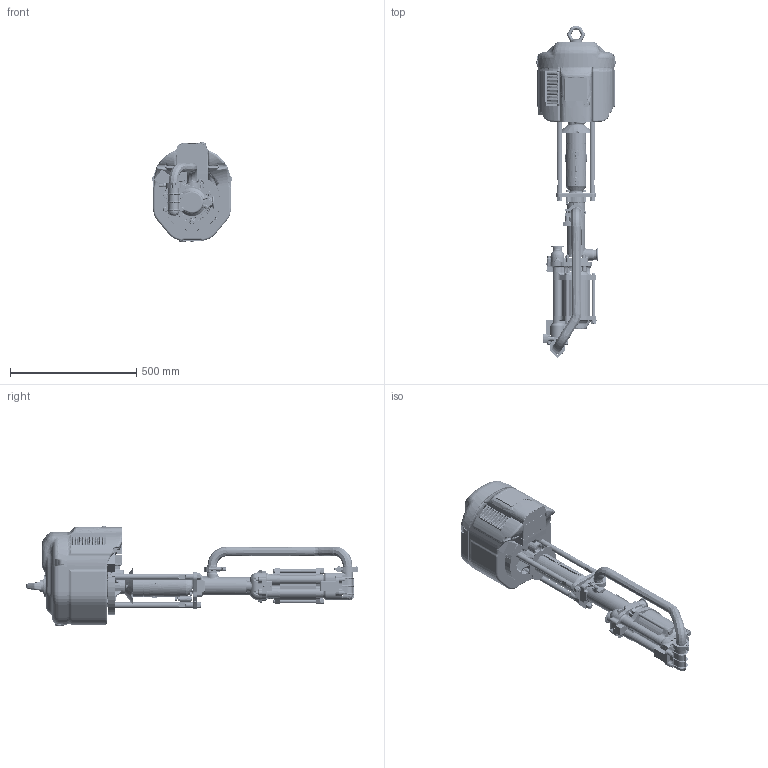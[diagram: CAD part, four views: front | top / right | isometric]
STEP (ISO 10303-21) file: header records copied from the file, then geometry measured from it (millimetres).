
FILE_DESCRIPTION((''),'2;1');
FILE_NAME('JS40L8-EN-G_PRT','2020-03-05T07:52:26',('qusrh3'),(''),'CREO PARAMETRIC BY PTC INC, 2019030','CREO PARAMETRIC BY PTC INC, 2019030','');
FILE_SCHEMA(('CONFIG_CONTROL_DESIGN'));
Products named in the file (1): JS40L8-EN-G_PRT
Bounding box: 314.71 x 1312.57 x 394.37 mm (x, y, z)
Surface area: 3117934.9 mm2 (no closed solid volume)
Topology: 0 solids, 352 shells, 6116 faces, 20142 edges, 13875 vertices
Faces by surface type: bspline 1838, cylinder 1750, plane 1361, torus 651, cone 383, sphere 113, extrusion 20
Entity records: 327485 total; most frequent: CARTESIAN_POINT 178304, ORIENTED_EDGE 32166, DIRECTION 24721, EDGE_CURVE 20118, VERTEX_POINT 13875, AXIS2_PLACEMENT_3D 9520, B_SPLINE_CURVE_WITH_KNOTS 9215, EDGE_LOOP 6116
